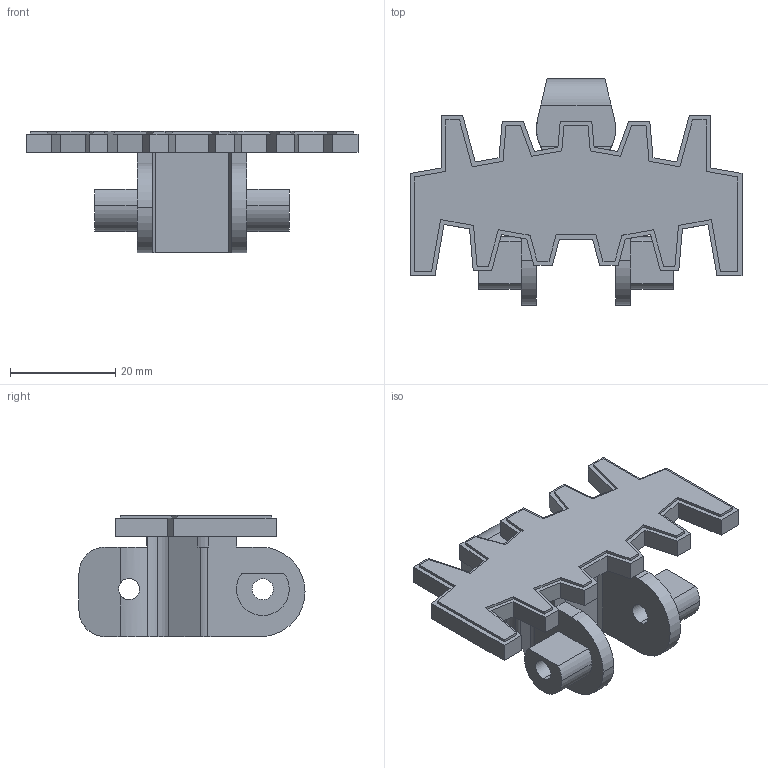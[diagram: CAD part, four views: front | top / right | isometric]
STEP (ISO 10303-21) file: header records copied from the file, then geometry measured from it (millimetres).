
FILE_DESCRIPTION (( 'STEP AP214' ), '1' );
FILE_NAME ('FSFT-5.STEP', '2011-04-14T11:11:47', ( '.' ), ( '' ), 'SwSTEP 2.0', 'SolidWorks 2010', '' );
FILE_SCHEMA (( 'AUTOMOTIVE_DESIGN' ));
Length unit declared in the file: millimetre
Products named in the file (1): FSFT-5
Bounding box: 63 x 42.9 x 23 mm (x, y, z)
Volume: 13562.3 mm3; surface area: 7740.2 mm2
Topology: 1 solids, 1 shells, 147 faces, 428 edges, 284 vertices
Faces by surface type: plane 119, cylinder 28
Entity records: 5947 total; most frequent: CARTESIAN_POINT 974, ORIENTED_EDGE 856, DIRECTION 760, EDGE_CURVE 428, VECTOR 364, LINE 364, VERTEX_POINT 284, AXIS2_PLACEMENT_3D 198
